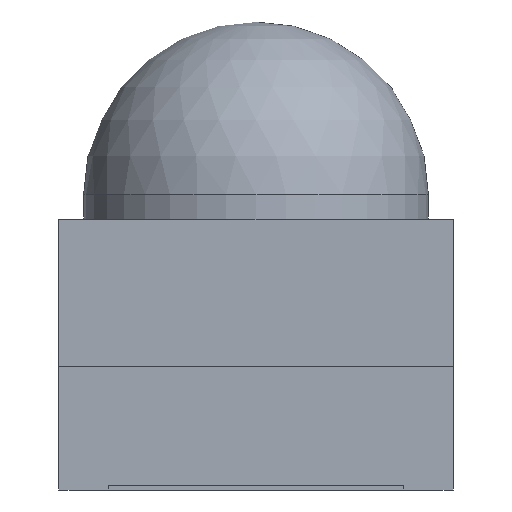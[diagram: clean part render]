
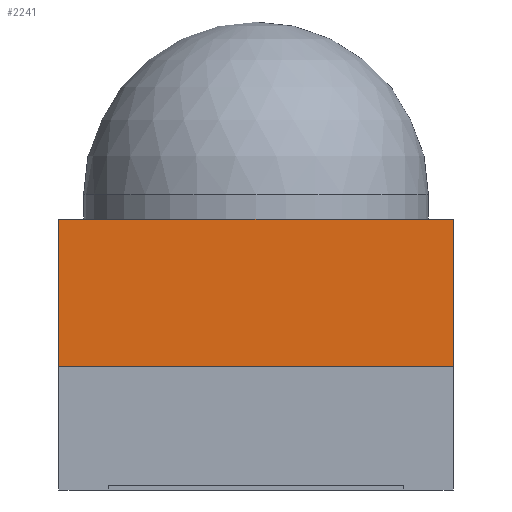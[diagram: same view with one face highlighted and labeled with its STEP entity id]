
A CAD part, left-side view. The second image highlights one B-rep face of the part: STEP entity #2241.
In plain terms, the highlighted planar face has unit normal (-1, 0, 0).
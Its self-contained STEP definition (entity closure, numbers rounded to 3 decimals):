
#2241 = ADVANCED_FACE('',(#2242),#2256,.F.);
#2242 = FACE_BOUND('',#2243,.F.);
#2243 = EDGE_LOOP('',(#2244,#2279,#2307,#2335));
#2244 = ORIENTED_EDGE('',*,*,#2245,.F.);
#2245 = EDGE_CURVE('',#2246,#2248,#2250,.T.);
#2246 = VERTEX_POINT('',#2247);
#2247 = CARTESIAN_POINT('',(-0.6,-0.4,0.25));
#2248 = VERTEX_POINT('',#2249);
#2249 = CARTESIAN_POINT('',(-0.6,-0.4,0.55));
#2250 = SURFACE_CURVE('',#2251,(#2255,#2267),.PCURVE_S1.);
#2251 = LINE('',#2252,#2253);
#2252 = CARTESIAN_POINT('',(-0.6,-0.4,0.25));
#2253 = VECTOR('',#2254,1.);
#2254 = DIRECTION('',(0.,0.,1.));
#2255 = PCURVE('',#2256,#2261);
#2256 = PLANE('',#2257);
#2257 = AXIS2_PLACEMENT_3D('',#2258,#2259,#2260);
#2258 = CARTESIAN_POINT('',(-0.6,-0.4,0.25));
#2259 = DIRECTION('',(1.,0.,0.));
#2260 = DIRECTION('',(0.,0.,1.));
#2261 = DEFINITIONAL_REPRESENTATION('',(#2262),#2266);
#2262 = LINE('',#2263,#2264);
#2263 = CARTESIAN_POINT('',(0.,0.));
#2264 = VECTOR('',#2265,1.);
#2265 = DIRECTION('',(1.,0.));
#2266 = ( GEOMETRIC_REPRESENTATION_CONTEXT(2) 
PARAMETRIC_REPRESENTATION_CONTEXT() REPRESENTATION_CONTEXT('2D SPACE',''
  ) );
#2267 = PCURVE('',#2268,#2273);
#2268 = PLANE('',#2269);
#2269 = AXIS2_PLACEMENT_3D('',#2270,#2271,#2272);
#2270 = CARTESIAN_POINT('',(-0.6,-0.4,0.25));
#2271 = DIRECTION('',(0.,1.,0.));
#2272 = DIRECTION('',(0.,0.,1.));
#2273 = DEFINITIONAL_REPRESENTATION('',(#2274),#2278);
#2274 = LINE('',#2275,#2276);
#2275 = CARTESIAN_POINT('',(0.,0.));
#2276 = VECTOR('',#2277,1.);
#2277 = DIRECTION('',(1.,0.));
#2278 = ( GEOMETRIC_REPRESENTATION_CONTEXT(2) 
PARAMETRIC_REPRESENTATION_CONTEXT() REPRESENTATION_CONTEXT('2D SPACE',''
  ) );
#2279 = ORIENTED_EDGE('',*,*,#2280,.T.);
#2280 = EDGE_CURVE('',#2246,#2281,#2283,.T.);
#2281 = VERTEX_POINT('',#2282);
#2282 = CARTESIAN_POINT('',(-0.6,0.4,0.25));
#2283 = SURFACE_CURVE('',#2284,(#2288,#2295),.PCURVE_S1.);
#2284 = LINE('',#2285,#2286);
#2285 = CARTESIAN_POINT('',(-0.6,-0.4,0.25));
#2286 = VECTOR('',#2287,1.);
#2287 = DIRECTION('',(0.,1.,0.));
#2288 = PCURVE('',#2256,#2289);
#2289 = DEFINITIONAL_REPRESENTATION('',(#2290),#2294);
#2290 = LINE('',#2291,#2292);
#2291 = CARTESIAN_POINT('',(0.,0.));
#2292 = VECTOR('',#2293,1.);
#2293 = DIRECTION('',(0.,-1.));
#2294 = ( GEOMETRIC_REPRESENTATION_CONTEXT(2) 
PARAMETRIC_REPRESENTATION_CONTEXT() REPRESENTATION_CONTEXT('2D SPACE',''
  ) );
#2295 = PCURVE('',#2296,#2301);
#2296 = PLANE('',#2297);
#2297 = AXIS2_PLACEMENT_3D('',#2298,#2299,#2300);
#2298 = CARTESIAN_POINT('',(-0.6,-0.4,0.25));
#2299 = DIRECTION('',(0.,0.,1.));
#2300 = DIRECTION('',(1.,0.,0.));
#2301 = DEFINITIONAL_REPRESENTATION('',(#2302),#2306);
#2302 = LINE('',#2303,#2304);
#2303 = CARTESIAN_POINT('',(0.,0.));
#2304 = VECTOR('',#2305,1.);
#2305 = DIRECTION('',(0.,1.));
#2306 = ( GEOMETRIC_REPRESENTATION_CONTEXT(2) 
PARAMETRIC_REPRESENTATION_CONTEXT() REPRESENTATION_CONTEXT('2D SPACE',''
  ) );
#2307 = ORIENTED_EDGE('',*,*,#2308,.T.);
#2308 = EDGE_CURVE('',#2281,#2309,#2311,.T.);
#2309 = VERTEX_POINT('',#2310);
#2310 = CARTESIAN_POINT('',(-0.6,0.4,0.55));
#2311 = SURFACE_CURVE('',#2312,(#2316,#2323),.PCURVE_S1.);
#2312 = LINE('',#2313,#2314);
#2313 = CARTESIAN_POINT('',(-0.6,0.4,0.25));
#2314 = VECTOR('',#2315,1.);
#2315 = DIRECTION('',(0.,0.,1.));
#2316 = PCURVE('',#2256,#2317);
#2317 = DEFINITIONAL_REPRESENTATION('',(#2318),#2322);
#2318 = LINE('',#2319,#2320);
#2319 = CARTESIAN_POINT('',(0.,-0.8));
#2320 = VECTOR('',#2321,1.);
#2321 = DIRECTION('',(1.,0.));
#2322 = ( GEOMETRIC_REPRESENTATION_CONTEXT(2) 
PARAMETRIC_REPRESENTATION_CONTEXT() REPRESENTATION_CONTEXT('2D SPACE',''
  ) );
#2323 = PCURVE('',#2324,#2329);
#2324 = PLANE('',#2325);
#2325 = AXIS2_PLACEMENT_3D('',#2326,#2327,#2328);
#2326 = CARTESIAN_POINT('',(-0.6,0.4,0.25));
#2327 = DIRECTION('',(0.,1.,0.));
#2328 = DIRECTION('',(0.,0.,1.));
#2329 = DEFINITIONAL_REPRESENTATION('',(#2330),#2334);
#2330 = LINE('',#2331,#2332);
#2331 = CARTESIAN_POINT('',(0.,0.));
#2332 = VECTOR('',#2333,1.);
#2333 = DIRECTION('',(1.,0.));
#2334 = ( GEOMETRIC_REPRESENTATION_CONTEXT(2) 
PARAMETRIC_REPRESENTATION_CONTEXT() REPRESENTATION_CONTEXT('2D SPACE',''
  ) );
#2335 = ORIENTED_EDGE('',*,*,#2336,.F.);
#2336 = EDGE_CURVE('',#2248,#2309,#2337,.T.);
#2337 = SURFACE_CURVE('',#2338,(#2342,#2349),.PCURVE_S1.);
#2338 = LINE('',#2339,#2340);
#2339 = CARTESIAN_POINT('',(-0.6,-0.4,0.55));
#2340 = VECTOR('',#2341,1.);
#2341 = DIRECTION('',(0.,1.,0.));
#2342 = PCURVE('',#2256,#2343);
#2343 = DEFINITIONAL_REPRESENTATION('',(#2344),#2348);
#2344 = LINE('',#2345,#2346);
#2345 = CARTESIAN_POINT('',(0.3,0.));
#2346 = VECTOR('',#2347,1.);
#2347 = DIRECTION('',(0.,-1.));
#2348 = ( GEOMETRIC_REPRESENTATION_CONTEXT(2) 
PARAMETRIC_REPRESENTATION_CONTEXT() REPRESENTATION_CONTEXT('2D SPACE',''
  ) );
#2349 = PCURVE('',#2350,#2355);
#2350 = PLANE('',#2351);
#2351 = AXIS2_PLACEMENT_3D('',#2352,#2353,#2354);
#2352 = CARTESIAN_POINT('',(-0.6,-0.4,0.55));
#2353 = DIRECTION('',(0.,0.,1.));
#2354 = DIRECTION('',(1.,0.,0.));
#2355 = DEFINITIONAL_REPRESENTATION('',(#2356),#2360);
#2356 = LINE('',#2357,#2358);
#2357 = CARTESIAN_POINT('',(0.,0.));
#2358 = VECTOR('',#2359,1.);
#2359 = DIRECTION('',(0.,1.));
#2360 = ( GEOMETRIC_REPRESENTATION_CONTEXT(2) 
PARAMETRIC_REPRESENTATION_CONTEXT() REPRESENTATION_CONTEXT('2D SPACE',''
  ) );
